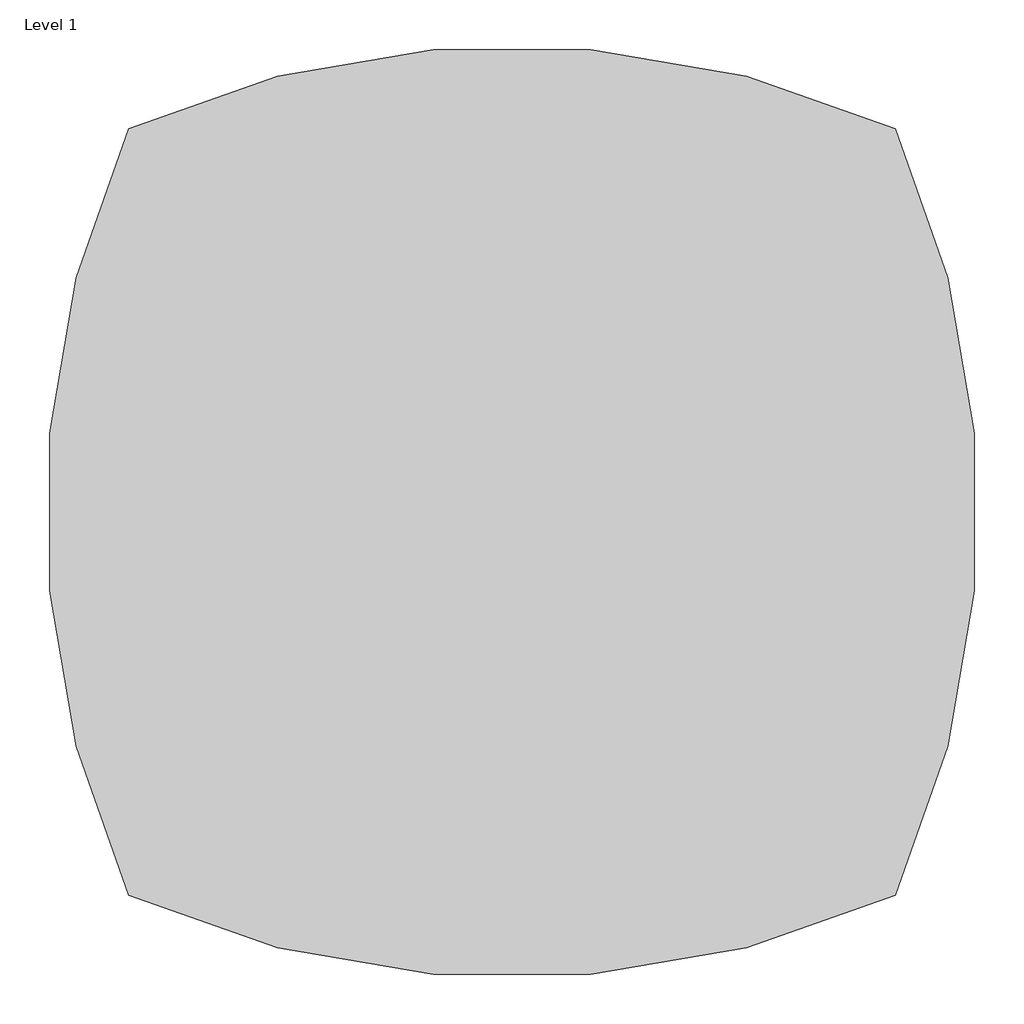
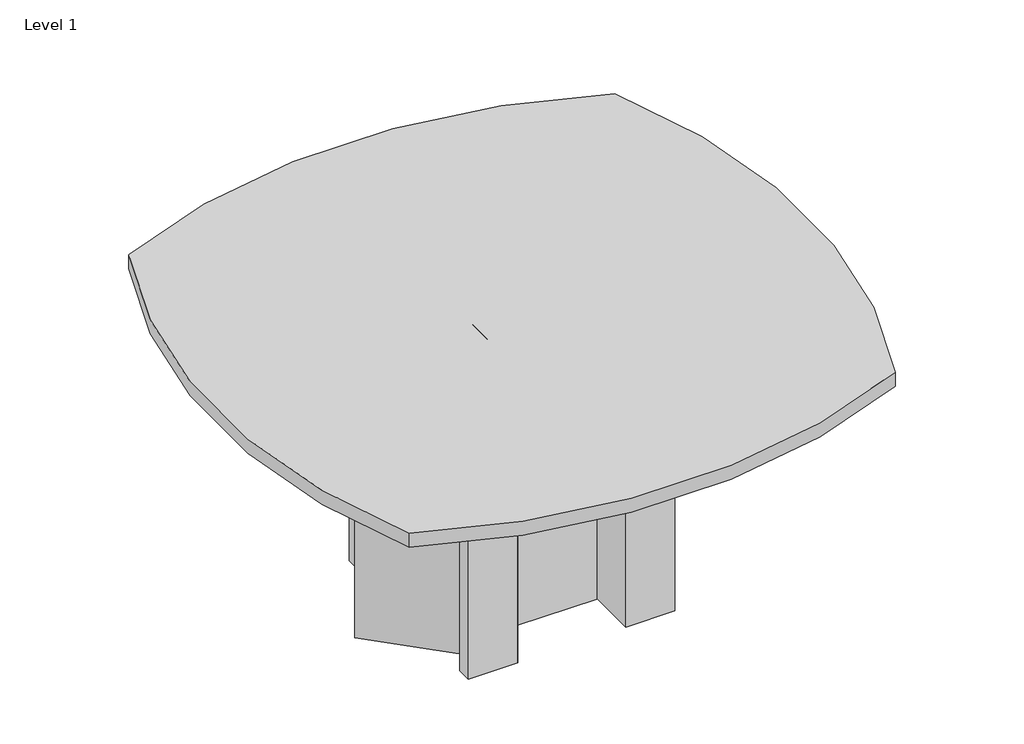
# One storey, incomplete: 3 proxies.
"""IFC4 building model written with IfcOpenShell, lengths in millimetres."""

from ifc_helpers import new_model, si_unit, origin, place, context, project, spatial, transform, mapped, element, save
from components import generic_models_4f29faae, generic_models_194ffc6f, generic_models_868c3093

model = new_model("IFC4")

# Units and contexts
model_context = context("Model", 3, world=origin())
ifc_project = project(units=[si_unit("LENGTHUNIT", "METRE", prefix="MILLI")], contexts=[model_context])

# Site, building, storey
site = spatial("IfcSite", under=ifc_project)
building = spatial("IfcBuilding", under=site)
storey = spatial("IfcBuildingStorey", under=building, Name="Level 1", Elevation=0.0)

# Proxies
placement = place(None, origin())
generic_models_shape = generic_models_4f29faae(model_context)
element("IfcBuildingElementProxy", 1, Name="FOUNDATION^TABLE 4_60x60 RADIUS EDGES-WORKSURFACE", ObjectType="FOUNDATION^TABLE 4_60x60 RADIUS EDGES-WORKSURFACE", at=placement, inside=storey, context=model_context, shape_type="MappedRepresentation", body=[
    mapped(generic_models_shape, transform((271.4625, -323.85, 704.85), x_axis=(1.0, 0.0, 0.0), y_axis=(0.0, 0.0, 1.0), z_axis=(0.0, -1.0, 0.0))),
])
generic_models_2_shape = generic_models_194ffc6f(model_context)
element("IfcBuildingElementProxy", 2, Name="FOUNDATION^TABLE 4_60x60 RADIUS EDGES-POWER LID", ObjectType="FOUNDATION^TABLE 4_60x60 RADIUS EDGES-POWER LID", at=placement, inside=storey, context=model_context, shape_type="MappedRepresentation", body=[
    mapped(generic_models_2_shape, transform((173.0375, -249.8441511, 730.25), x_axis=(1.0, 0.0, 0.0), y_axis=(0.0, 0.0, 1.0), z_axis=(0.0, -1.0, 0.0))),
])
generic_models_3_shape = generic_models_868c3093(model_context)
element("IfcBuildingElementProxy", 3, Name="FOUNDATION^TABLE 4_60x60 RADIUS EDGES-BASE ASSEMBLY", ObjectType="FOUNDATION^TABLE 4_60x60 RADIUS EDGES-BASE ASSEMBLY", at=placement, inside=storey, context=model_context, shape_type="MappedRepresentation", body=[
    mapped(generic_models_3_shape, transform((4.7625, -57.15, 0.0), x_axis=(1.0, 0.0, 0.0), y_axis=(0.0, 0.0, 1.0), z_axis=(0.0, -1.0, 0.0))),
])

save(model, "model.ifc")
